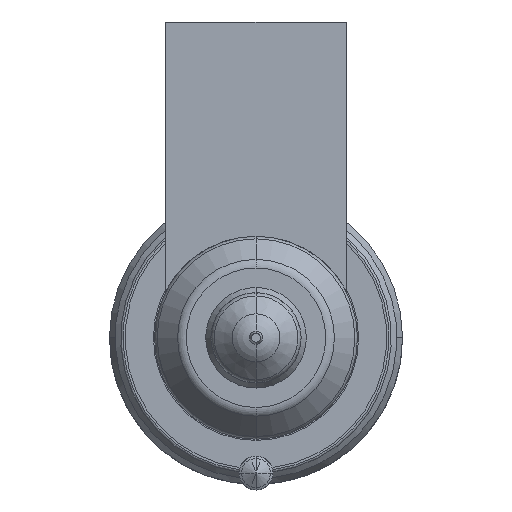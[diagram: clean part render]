
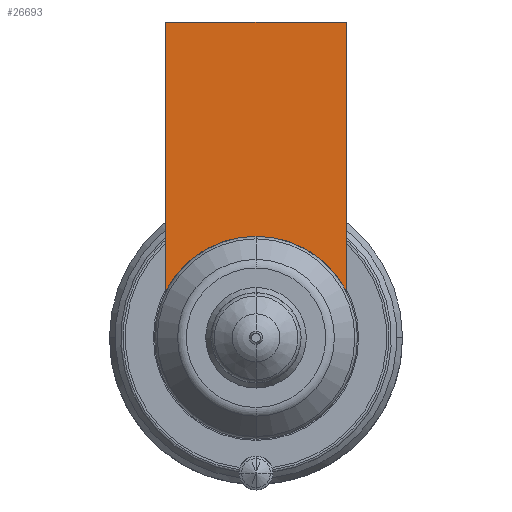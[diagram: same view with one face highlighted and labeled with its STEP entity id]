
A CAD part, front view. The second image highlights one B-rep face of the part: STEP entity #26693.
In plain terms, the highlighted planar face has unit normal (0, -1, 0).
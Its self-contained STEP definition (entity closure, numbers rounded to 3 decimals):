
#25812=DIRECTION('',(1.,0.,0.));
#25813=VECTOR('',#25812,16.);
#25814=CARTESIAN_POINT('',(-8.,-54.,28.));
#25815=LINE('',#25814,#25813);
#25820=CARTESIAN_POINT('',(0.,-54.,0.));
#25821=DIRECTION('',(0.,-1.,0.));
#25822=DIRECTION('',(0.889,0.,0.458));
#25823=AXIS2_PLACEMENT_3D('',#25820,#25821,#25822);
#25828=CARTESIAN_POINT('',(0.,-54.,0.));
#25829=DIRECTION('',(0.,-1.,0.));
#25830=DIRECTION('',(0.,0.,1.));
#25831=AXIS2_PLACEMENT_3D('',#25828,#25829,#25830);
#25857=DIRECTION('',(0.,0.,-1.));
#25858=VECTOR('',#25857,23.877);
#25859=CARTESIAN_POINT('',(-8.,-54.,28.));
#25860=LINE('',#25859,#25858);
#26537=DIRECTION('',(0.,0.,-1.));
#26538=VECTOR('',#26537,23.877);
#26539=CARTESIAN_POINT('',(8.,-54.,28.));
#26540=LINE('',#26539,#26538);
#26590=CARTESIAN_POINT('',(-8.,-54.,28.));
#26591=VERTEX_POINT('',#26590);
#26596=CARTESIAN_POINT('',(8.,-54.,28.));
#26597=VERTEX_POINT('',#26596);
#26600=CARTESIAN_POINT('',(-8.,-54.,4.123));
#26601=VERTEX_POINT('',#26600);
#26604=CARTESIAN_POINT('',(8.,-54.,4.123));
#26605=VERTEX_POINT('',#26604);
#26674=CARTESIAN_POINT('',(0.,-54.,9.));
#26675=VERTEX_POINT('',#26674);
#26676=CARTESIAN_POINT('',(0.,-54.,9.));
#26677=DIRECTION('',(0.,1.,0.));
#26678=DIRECTION('',(0.,0.,-1.));
#26679=AXIS2_PLACEMENT_3D('',#26676,#26677,#26678);
#26680=PLANE('',#26679);
#26682=ORIENTED_EDGE('',*,*,#26681,.F.);
#26684=ORIENTED_EDGE('',*,*,#26683,.T.);
#26686=ORIENTED_EDGE('',*,*,#26685,.T.);
#26688=ORIENTED_EDGE('',*,*,#26687,.T.);
#26690=ORIENTED_EDGE('',*,*,#26689,.T.);
#26691=EDGE_LOOP('',(#26682,#26684,#26686,#26688,#26690));
#26692=FACE_OUTER_BOUND('',#26691,.F.);
#26693=ADVANCED_FACE('',(#26692),#26680,.F.);
#25824=CIRCLE('',#25823,9.);
#25832=CIRCLE('',#25831,9.);
#26681=EDGE_CURVE('',#26591,#26601,#25860,.T.);
#26683=EDGE_CURVE('',#26591,#26597,#25815,.T.);
#26685=EDGE_CURVE('',#26597,#26605,#26540,.T.);
#26687=EDGE_CURVE('',#26605,#26675,#25824,.T.);
#26689=EDGE_CURVE('',#26675,#26601,#25832,.T.);
